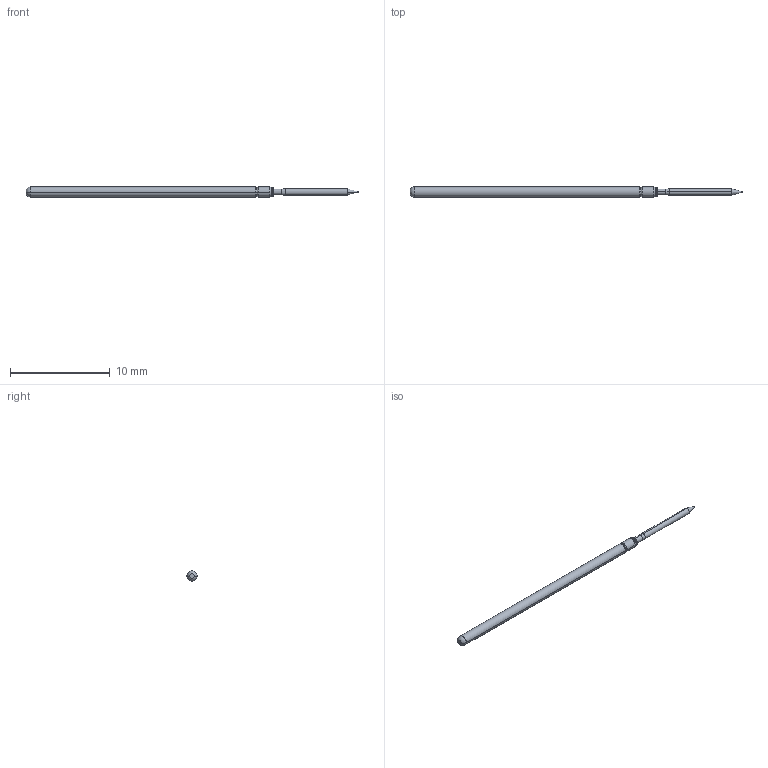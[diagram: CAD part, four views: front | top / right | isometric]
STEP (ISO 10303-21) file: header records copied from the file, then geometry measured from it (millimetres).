
FILE_DESCRIPTION (( 'STEP AP203' ), '1' );
FILE_NAME ('101024-066-922 (REST).STEP', '2022-11-18T09:52:28', ( '' ), ( '' ), 'SwSTEP 2.0', 'SolidWorks 2022', '' );
FILE_SCHEMA (( 'CONFIG_CONTROL_DESIGN' ));
Length unit declared in the file: inch
Products named in the file (1): 101024-066-922 (REST)
Bounding box: 33.27 x 1.02 x 1.02 mm (x, y, z)
Volume: 22.6 mm3; surface area: 96 mm2
Topology: 1 solids, 1 shells, 30 faces, 62 edges, 36 vertices
Faces by surface type: cylinder 10, torus 8, cone 8, plane 4
Entity records: 881 total; most frequent: DIRECTION 168, CARTESIAN_POINT 129, ORIENTED_EDGE 124, AXIS2_PLACEMENT_3D 75, EDGE_CURVE 62, CIRCLE 44, VERTEX_POINT 36, EDGE_LOOP 32
